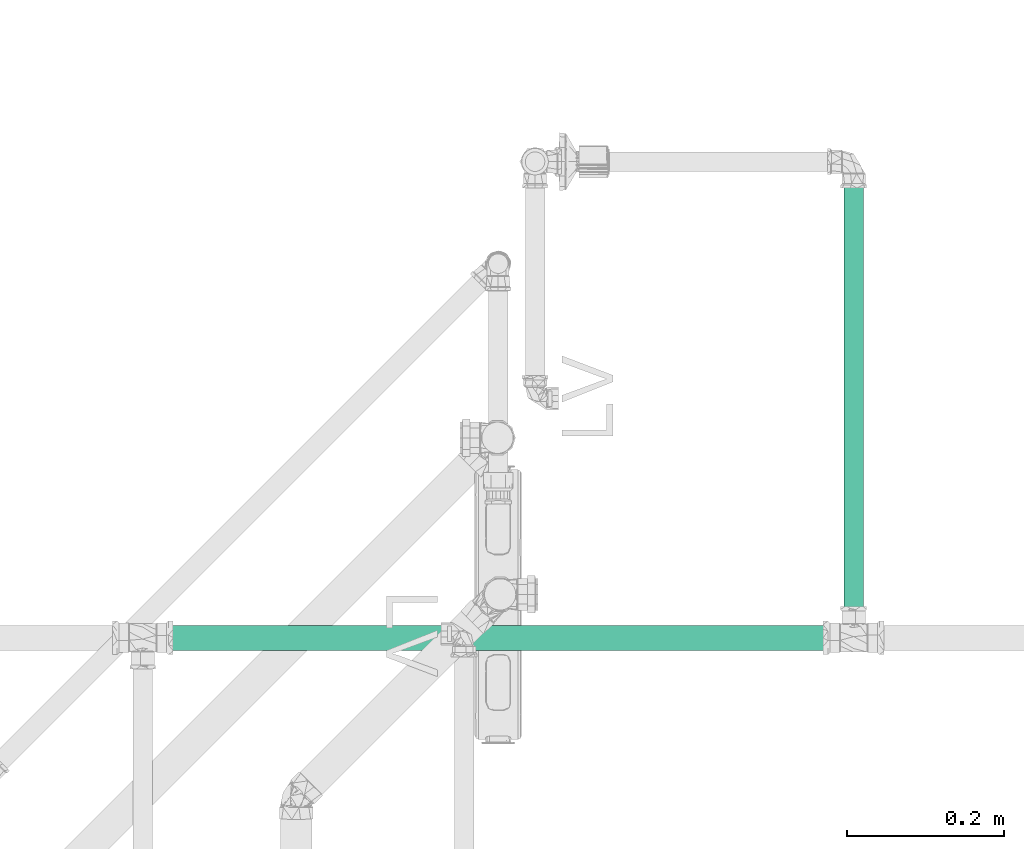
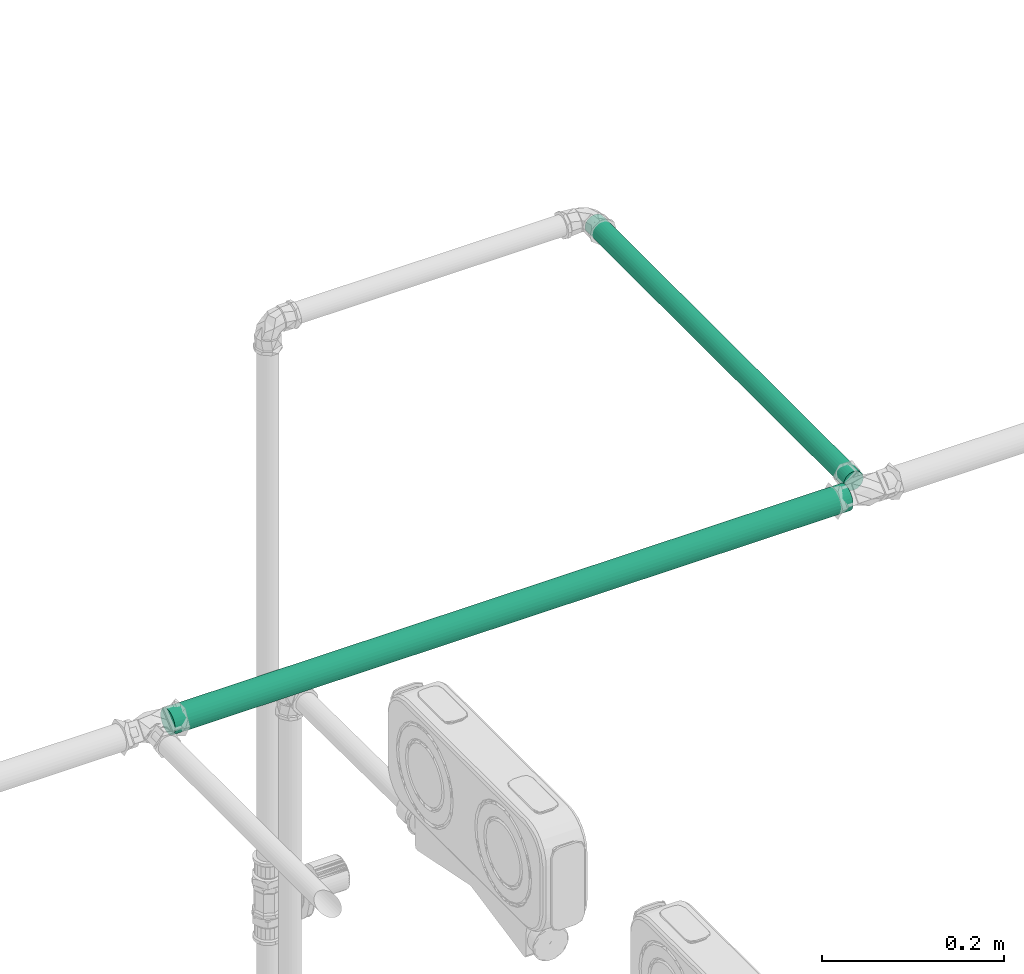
# One storey, part 105 of 589: 2 flow segments.
"""IFC2X3 building model written with IfcOpenShell, lengths in millimetres."""

from ifc_helpers import new_model, entity, si_unit, converted_unit, derived_unit, direction, frame, frame_2d, origin, place, context, subcontext, project, spatial, circle, extrude, type_object, element, save


model = new_model("IFC2X3")

# Units and contexts
model_context = context("Model", 3, precision=0.01, world=origin(), true_north=direction((6.123031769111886e-17, 1.0)))
body_context = subcontext(model_context, "Body", "Model", "MODEL_VIEW")
ifc_project = project(units=[si_unit("LENGTHUNIT", "METRE", prefix="MILLI"), si_unit("AREAUNIT", "SQUARE_METRE"), si_unit("VOLUMEUNIT", "CUBIC_METRE"), converted_unit("PLANEANGLEUNIT", "DEGREE", entity("IfcRatioMeasure", 0.017453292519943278), si_unit("PLANEANGLEUNIT", "RADIAN"), dimensions=[0, 0, 0, 0, 0, 0, 0]), si_unit("MASSUNIT", "GRAM", prefix="KILO"), derived_unit("MASSDENSITYUNIT", [(si_unit("MASSUNIT", "GRAM", prefix="KILO"), 1), (si_unit("LENGTHUNIT", "METRE"), -3)]), derived_unit("IONCONCENTRATIONUNIT", [(si_unit("MASSUNIT", "GRAM", prefix="KILO"), 1), (si_unit("LENGTHUNIT", "METRE"), -3)]), derived_unit("MOMENTOFINERTIAUNIT", [(si_unit("LENGTHUNIT", "METRE"), 4)]), si_unit("TIMEUNIT", "SECOND"), si_unit("FREQUENCYUNIT", "HERTZ"), si_unit("THERMODYNAMICTEMPERATUREUNIT", "DEGREE_CELSIUS"), derived_unit("THERMALTRANSMITTANCEUNIT", [(si_unit("MASSUNIT", "GRAM", prefix="KILO"), 1), (si_unit("THERMODYNAMICTEMPERATUREUNIT", "KELVIN"), -1), (si_unit("TIMEUNIT", "SECOND"), -3)]), derived_unit("THERMALCONDUCTANCEUNIT", [(si_unit("MASSUNIT", "GRAM", prefix="KILO"), 1), (si_unit("THERMODYNAMICTEMPERATUREUNIT", "KELVIN"), -1), (si_unit("TIMEUNIT", "SECOND"), -3), (si_unit("LENGTHUNIT", "METRE"), 1)]), derived_unit("VOLUMETRICFLOWRATEUNIT", [(si_unit("LENGTHUNIT", "METRE"), 3), (si_unit("TIMEUNIT", "SECOND"), -1)]), derived_unit("MASSFLOWRATEUNIT", [(si_unit("MASSUNIT", "GRAM", prefix="KILO"), 1), (si_unit("TIMEUNIT", "SECOND"), -1)]), derived_unit("ROTATIONALFREQUENCYUNIT", [(si_unit("TIMEUNIT", "SECOND"), -1)]), si_unit("ELECTRICCURRENTUNIT", "AMPERE"), si_unit("ELECTRICVOLTAGEUNIT", "VOLT"), si_unit("POWERUNIT", "WATT"), si_unit("FORCEUNIT", "NEWTON", prefix="KILO"), si_unit("ILLUMINANCEUNIT", "LUX"), si_unit("LUMINOUSFLUXUNIT", "LUMEN"), si_unit("LUMINOUSINTENSITYUNIT", "CANDELA"), derived_unit("USERDEFINED", [(si_unit("MASSUNIT", "GRAM", prefix="KILO"), -1), (si_unit("LENGTHUNIT", "METRE"), -2), (si_unit("TIMEUNIT", "SECOND"), 3), (si_unit("LUMINOUSFLUXUNIT", "LUMEN"), 1)]), derived_unit("USERDEFINED", [(si_unit("MASSUNIT", "GRAM", prefix="KILO"), 1), (si_unit("TIMEUNIT", "SECOND"), -3), (si_unit("LENGTHUNIT", "METRE"), 3), (si_unit("ELECTRICCURRENTUNIT", "AMPERE"), -2)]), derived_unit("SOUNDPOWERUNIT", [(si_unit("MASSUNIT", "GRAM", prefix="KILO"), 1), (si_unit("TIMEUNIT", "SECOND"), -3), (si_unit("LENGTHUNIT", "METRE"), 2)]), derived_unit("SOUNDPRESSUREUNIT", [(si_unit("MASSUNIT", "GRAM", prefix="KILO"), 1), (si_unit("LENGTHUNIT", "METRE"), -1), (si_unit("TIMEUNIT", "SECOND"), -2)]), derived_unit("LINEARVELOCITYUNIT", [(si_unit("LENGTHUNIT", "METRE"), 1), (si_unit("TIMEUNIT", "SECOND"), -1)]), si_unit("PRESSUREUNIT", "PASCAL"), derived_unit("USERDEFINED", [(si_unit("MASSUNIT", "GRAM", prefix="KILO"), 1), (si_unit("LENGTHUNIT", "METRE"), -2), (si_unit("TIMEUNIT", "SECOND"), -2)]), derived_unit("LINEARFORCEUNIT", [(si_unit("MASSUNIT", "GRAM", prefix="KILO"), 1), (si_unit("TIMEUNIT", "SECOND"), -2)]), derived_unit("PLANARFORCEUNIT", [(si_unit("MASSUNIT", "GRAM", prefix="KILO"), 1), (si_unit("LENGTHUNIT", "METRE"), -1), (si_unit("TIMEUNIT", "SECOND"), -2)]), derived_unit("SPECIFICHEATCAPACITYUNIT", [(si_unit("THERMODYNAMICTEMPERATUREUNIT", "KELVIN"), -1), (si_unit("LENGTHUNIT", "METRE"), 2), (si_unit("TIMEUNIT", "SECOND"), -2)]), derived_unit("HEATINGVALUEUNIT", [(si_unit("LENGTHUNIT", "METRE"), 2), (si_unit("TIMEUNIT", "SECOND"), -2)]), derived_unit("VAPORPERMEABILITYUNIT", [(si_unit("LENGTHUNIT", "METRE"), -1), (si_unit("TIMEUNIT", "SECOND"), 1)]), derived_unit("DYNAMICVISCOSITYUNIT", [(si_unit("MASSUNIT", "GRAM", prefix="KILO"), 1), (si_unit("TIMEUNIT", "SECOND"), -1), (si_unit("LENGTHUNIT", "METRE"), -1)]), derived_unit("THERMALEXPANSIONCOEFFICIENTUNIT", [(si_unit("THERMODYNAMICTEMPERATUREUNIT", "KELVIN"), -1)]), derived_unit("MODULUSOFELASTICITYUNIT", [(si_unit("MASSUNIT", "GRAM", prefix="KILO"), 1), (si_unit("LENGTHUNIT", "METRE"), -1), (si_unit("TIMEUNIT", "SECOND"), -2)]), derived_unit("ISOTHERMALMOISTURECAPACITYUNIT", [(si_unit("LENGTHUNIT", "METRE"), 3), (si_unit("MASSUNIT", "GRAM", prefix="KILO"), -1)]), derived_unit("MOISTUREDIFFUSIVITYUNIT", [(si_unit("TIMEUNIT", "SECOND"), -1), (si_unit("LENGTHUNIT", "METRE"), 2)])], contexts=[model_context])

# Site, building, storey
site_placement = place(None, origin())
site = spatial("IfcSite", under=ifc_project, at=site_placement, Name="Default", CompositionType="ELEMENT")
building_placement = place(site_placement, origin())
building = spatial("IfcBuilding", under=site, at=building_placement, CompositionType="ELEMENT")
storey_placement = place(building_placement, frame((0.0, 0.0, 100.0)))
storey = spatial("IfcBuildingStorey", under=building, at=storey_placement, Name="TÉRREO", CompositionType="ELEMENT", Elevation=100.0)

# Flow segments
pipe_segment_type = type_object("IfcPipeSegmentType", Name="Tipos de tubos:PVC Marrom Soldável", PredefinedType="NOTDEFINED")
flow_segment_1_placement = place(storey_placement, origin())
element("IfcFlowSegment", 1, at=flow_segment_1_placement, inside=storey, type_object=pipe_segment_type, Name="Tipos de tubos:PVC Marrom Soldável", ObjectType="Tipos de tubos:PVC Marrom Soldável", context=body_context, shape_type="SweptSolid", body=[
    extrude(circle(Radius=16.0, at=frame_2d((0.0, 5.414335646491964e-13), x_axis=(1.0, 0.0))), frame((-45.741132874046, -6202.625782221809, 2970.0), z_axis=(1.0, 0.0, 0.0), x_axis=(0.0, 1.0, 0.0)), (0.0, 0.0, 1.0), 861.1374742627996),
])
flow_segment_2_placement = place(storey_placement, origin())
element("IfcFlowSegment", 2, at=flow_segment_2_placement, inside=storey, type_object=pipe_segment_type, Name="Tipos de tubos:PVC Marrom Soldável", ObjectType="Tipos de tubos:PVC Marrom Soldável", context=body_context, shape_type="SweptSolid", body=[
    extrude(circle(Radius=12.5, at=frame_2d((0.0, -5.414335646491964e-13), x_axis=(1.0, 0.0))), frame((838.0963413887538, -6180.325782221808, 2970.0), z_axis=(0.0, 1.0, 0.0), x_axis=(1.0, 0.0, 0.0)), (0.0, 0.0, 1.0), 569.529813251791),
])

save(model, "model.ifc")
